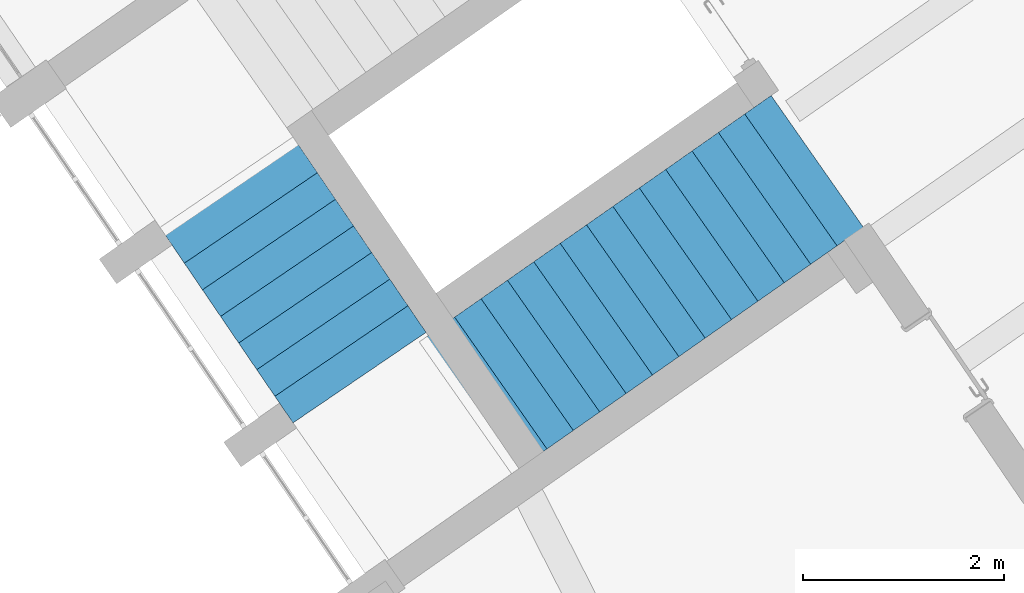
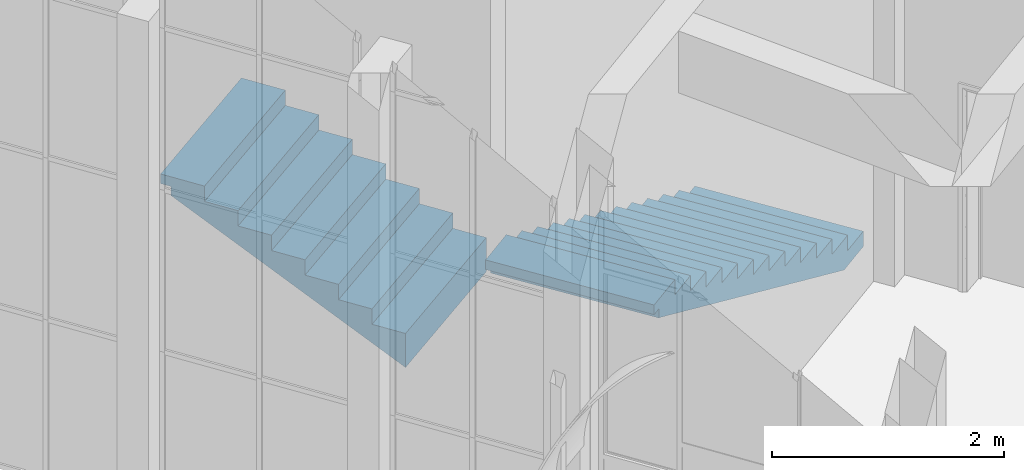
# One storey, part 151 of 157: 2 stair flights, 1 element without a shape of its own.
"""IFC2X3 building model written with IfcOpenShell, lengths in millimetres."""

from ifc_helpers import new_model, entity, si_unit, converted_unit, derived_unit, direction, frame, origin, place, context, subcontext, project, spatial, faceted_brep, material, material_list, type_object, element, aggregate, save


model = new_model("IFC2X3")

# Units and contexts
model_context = context("Model", 3, precision=0.01, world=origin(), true_north=direction((6.123031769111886e-17, 1.0)))
body_context = subcontext(model_context, "Body", "Model", "MODEL_VIEW")
ifc_project = project(units=[si_unit("LENGTHUNIT", "METRE", prefix="MILLI"), si_unit("AREAUNIT", "SQUARE_METRE"), si_unit("VOLUMEUNIT", "CUBIC_METRE"), converted_unit("PLANEANGLEUNIT", "DEGREE", entity("IfcRatioMeasure", 0.017453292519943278), si_unit("PLANEANGLEUNIT", "RADIAN"), dimensions=[0, 0, 0, 0, 0, 0, 0]), si_unit("MASSUNIT", "GRAM", prefix="KILO"), derived_unit("MASSDENSITYUNIT", [(si_unit("MASSUNIT", "GRAM", prefix="KILO"), 1), (si_unit("LENGTHUNIT", "METRE"), -3)]), derived_unit("MOMENTOFINERTIAUNIT", [(si_unit("LENGTHUNIT", "METRE"), 4)]), si_unit("TIMEUNIT", "SECOND"), si_unit("FREQUENCYUNIT", "HERTZ"), si_unit("THERMODYNAMICTEMPERATUREUNIT", "DEGREE_CELSIUS"), derived_unit("THERMALTRANSMITTANCEUNIT", [(si_unit("MASSUNIT", "GRAM", prefix="KILO"), 1), (si_unit("THERMODYNAMICTEMPERATUREUNIT", "KELVIN"), -1), (si_unit("TIMEUNIT", "SECOND"), -3)]), derived_unit("THERMALCONDUCTANCEUNIT", [(si_unit("MASSUNIT", "GRAM", prefix="KILO"), 1), (si_unit("LENGTHUNIT", "METRE"), 1), (si_unit("THERMODYNAMICTEMPERATUREUNIT", "KELVIN"), -1), (si_unit("TIMEUNIT", "SECOND"), -3)]), derived_unit("VOLUMETRICFLOWRATEUNIT", [(si_unit("LENGTHUNIT", "METRE"), 3), (si_unit("TIMEUNIT", "SECOND"), -1)]), derived_unit("MASSFLOWRATEUNIT", [(si_unit("MASSUNIT", "GRAM", prefix="KILO"), 1), (si_unit("TIMEUNIT", "SECOND"), -1)]), derived_unit("ROTATIONALFREQUENCYUNIT", [(si_unit("TIMEUNIT", "SECOND"), -1)]), si_unit("ELECTRICCURRENTUNIT", "AMPERE"), si_unit("ELECTRICVOLTAGEUNIT", "VOLT"), si_unit("POWERUNIT", "WATT"), converted_unit("FORCEUNIT", "KIP", entity("IfcRatioMeasure", 2.088543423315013e-05), si_unit("FORCEUNIT", "NEWTON"), dimensions=[1, 1, -2, 0, 0, 0, 0]), si_unit("ILLUMINANCEUNIT", "LUX"), si_unit("LUMINOUSFLUXUNIT", "LUMEN"), si_unit("LUMINOUSINTENSITYUNIT", "CANDELA"), derived_unit("USERDEFINED", [(si_unit("MASSUNIT", "GRAM", prefix="KILO"), -1), (si_unit("LENGTHUNIT", "METRE"), -2), (si_unit("TIMEUNIT", "SECOND"), 3), (si_unit("LUMINOUSFLUXUNIT", "LUMEN"), 1)]), derived_unit("USERDEFINED", [(si_unit("MASSUNIT", "GRAM", prefix="KILO"), 1), (si_unit("LENGTHUNIT", "METRE"), 3), (si_unit("TIMEUNIT", "SECOND"), -3), (si_unit("ELECTRICCURRENTUNIT", "AMPERE"), -2)]), derived_unit("USERDEFINED", [(si_unit("LENGTHUNIT", "METRE"), 2), (si_unit("TIMEUNIT", "SECOND"), -2)]), derived_unit("SOUNDPOWERUNIT", [(si_unit("MASSUNIT", "GRAM", prefix="KILO"), 1), (si_unit("LENGTHUNIT", "METRE"), 2), (si_unit("TIMEUNIT", "SECOND"), -3)]), derived_unit("SOUNDPRESSUREUNIT", [(si_unit("MASSUNIT", "GRAM", prefix="KILO"), 1), (si_unit("LENGTHUNIT", "METRE"), -1), (si_unit("TIMEUNIT", "SECOND"), -2)]), derived_unit("LINEARVELOCITYUNIT", [(si_unit("LENGTHUNIT", "METRE"), 1), (si_unit("TIMEUNIT", "SECOND"), -1)]), si_unit("PRESSUREUNIT", "PASCAL"), derived_unit("USERDEFINED", [(si_unit("LENGTHUNIT", "METRE"), -2), (si_unit("MASSUNIT", "GRAM", prefix="KILO"), 1), (si_unit("TIMEUNIT", "SECOND"), -2)]), derived_unit("LINEARFORCEUNIT", [(si_unit("MASSUNIT", "GRAM", prefix="KILO"), 1), (si_unit("LENGTHUNIT", "METRE"), 1), (si_unit("TIMEUNIT", "SECOND"), -2), (si_unit("LENGTHUNIT", "METRE"), -1)]), derived_unit("PLANARFORCEUNIT", [(si_unit("MASSUNIT", "GRAM", prefix="KILO"), 1), (si_unit("LENGTHUNIT", "METRE"), 1), (si_unit("TIMEUNIT", "SECOND"), -2), (si_unit("LENGTHUNIT", "METRE"), -2)]), derived_unit("SPECIFICHEATCAPACITYUNIT", [(si_unit("LENGTHUNIT", "METRE"), 2), (si_unit("TIMEUNIT", "SECOND"), -2), (si_unit("THERMODYNAMICTEMPERATUREUNIT", "KELVIN"), -1)]), derived_unit("VAPORPERMEABILITYUNIT", [(si_unit("TIMEUNIT", "SECOND"), 1), (si_unit("LENGTHUNIT", "METRE"), -1)]), derived_unit("DYNAMICVISCOSITYUNIT", [(si_unit("MASSUNIT", "GRAM", prefix="KILO"), 1), (si_unit("LENGTHUNIT", "METRE"), -1), (si_unit("TIMEUNIT", "SECOND"), -1)]), derived_unit("THERMALEXPANSIONCOEFFICIENTUNIT", [(si_unit("THERMODYNAMICTEMPERATUREUNIT", "KELVIN"), -1)])], contexts=[model_context])

# Site, building, storey
site_placement = place(None, frame((0.0, 0.0, 0.0), z_axis=(0.0, 0.0, 1.0), x_axis=(0.8191520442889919, 0.5735764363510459, 0.0)))
site = spatial("IfcSite", under=ifc_project, at=site_placement, Name="Default", CompositionType="ELEMENT")
building_placement = place(site_placement, origin())
building = spatial("IfcBuilding", under=site, at=building_placement, CompositionType="ELEMENT")
storey_placement = place(building_placement, origin())
storey = spatial("IfcBuildingStorey", under=building, at=storey_placement, Name="1.EG +0.00", CompositionType="ELEMENT", Elevation=-4.331468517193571e-12)

# Stair, stair flights
stair_placement = place(storey_placement, origin())
stair = element("IfcStair", 1, at=stair_placement, inside=storey, Name="Precast Stair:Stair", ObjectType="Precast Stair:Stair_CJC", ShapeType="NOTDEFINED")
ifc_material_1 = material(Name="Concrete, Cast-in-Place gray")
ifc_material_2 = material(Name="Analytical Wall Surface_CJC")
ifc_material_list = material_list([ifc_material_1, ifc_material_2])
stair_flight_type = type_object("IfcStairFlightType", Name="Monolithic Run:1mm_Tread-175mm_Depth", PredefinedType="STRAIGHT")
stair_flight_1_placement = place(stair_placement, frame((-221177.21995157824, 109846.76840384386, 0.0)))
stair_flight_1 = element("IfcStairFlight", 2, at=stair_flight_1_placement, type_object=stair_flight_type, material=ifc_material_list, Name="Precast Stair:Stair:619710 Run 1", ObjectType="Monolithic Run:1mm_Tread-175mm_Depth", NumberOfRiser=13, NumberOfTreads=13, RiserHeight=0.5269227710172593, TreadLength=1.0498687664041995, context=body_context, shape_type="Brep", body=[
    faceted_brep([(3940.0, 0.0, 160.60606060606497), (4260.0, 0.0, 160.60606060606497), (4260.0, 1600.0, 160.60606060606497), (3940.0, 1600.0, 160.60606060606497), (3940.0, 0.0, 159.60606060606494), (3940.0, 1600.0, 159.60606060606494), (4260.0, 1600.0, 159.60606060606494), (4260.0, 0.0, 159.60606060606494)], [[[0, 1, 2, 3]], [[4, 5, 6, 7]], [[1, 0, 4, 7]], [[2, 1, 7, 6]], [[3, 2, 6, 5]], [[0, 3, 5, 4]]]),
    faceted_brep([(3620.0, 0.0, 321.21212121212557), (3940.0, 0.0, 321.21212121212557), (3940.0, 1600.0, 321.21212121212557), (3620.0, 1600.0, 321.21212121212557), (3620.0, 0.0, 320.2121212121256), (3620.0, 1600.0, 320.2121212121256), (3940.0, 1600.0, 320.2121212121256), (3940.0, 0.0, 320.2121212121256)], [[[0, 1, 2, 3]], [[4, 5, 6, 7]], [[1, 0, 4, 7]], [[2, 1, 7, 6]], [[3, 2, 6, 5]], [[0, 3, 5, 4]]]),
    faceted_brep([(3300.0, 0.0, 481.8181818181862), (3620.0, 0.0, 481.8181818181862), (3620.0, 1600.0, 481.8181818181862), (3300.0, 1600.0, 481.8181818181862), (3300.0, 0.0, 480.81818181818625), (3300.0, 1600.0, 480.81818181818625), (3620.0, 1600.0, 480.81818181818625), (3620.0, 0.0, 480.81818181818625)], [[[0, 1, 2, 3]], [[4, 5, 6, 7]], [[1, 0, 4, 7]], [[2, 1, 7, 6]], [[3, 2, 6, 5]], [[0, 3, 5, 4]]]),
    faceted_brep([(2980.0, 0.0, 642.4242424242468), (3300.0, 0.0, 642.4242424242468), (3300.0, 1600.0, 642.4242424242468), (2980.0, 1600.0, 642.4242424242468), (2980.0, 0.0, 641.4242424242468), (2980.0, 1600.0, 641.4242424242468), (3300.0, 1600.0, 641.4242424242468), (3300.0, 0.0, 641.4242424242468)], [[[0, 1, 2, 3]], [[4, 5, 6, 7]], [[1, 0, 4, 7]], [[2, 1, 7, 6]], [[3, 2, 6, 5]], [[0, 3, 5, 4]]]),
    faceted_brep([(2660.0, 0.0, 803.0303030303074), (2980.0, 0.0, 803.0303030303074), (2980.0, 1600.0, 803.0303030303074), (2660.0, 1600.0, 803.0303030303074), (2660.0, 0.0, 802.0303030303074), (2660.0, 1600.0, 802.0303030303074), (2980.0, 1600.0, 802.0303030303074), (2980.0, 0.0, 802.0303030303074)], [[[0, 1, 2, 3]], [[4, 5, 6, 7]], [[1, 0, 4, 7]], [[2, 1, 7, 6]], [[3, 2, 6, 5]], [[0, 3, 5, 4]]]),
    faceted_brep([(2340.0, 0.0, 963.6363636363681), (2660.0, 0.0, 963.6363636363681), (2660.0, 1600.0, 963.6363636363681), (2340.0, 1600.0, 963.6363636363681), (2340.0, 0.0, 962.6363636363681), (2340.0, 1600.0, 962.6363636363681), (2660.0, 1600.0, 962.6363636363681), (2660.0, 0.0, 962.6363636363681)], [[[0, 1, 2, 3]], [[4, 5, 6, 7]], [[1, 0, 4, 7]], [[2, 1, 7, 6]], [[3, 2, 6, 5]], [[0, 3, 5, 4]]]),
    faceted_brep([(2020.0, 0.0, 1124.2424242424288), (2340.0, 0.0, 1124.2424242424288), (2340.0, 1600.0, 1124.2424242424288), (2020.0, 1600.0, 1124.2424242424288), (2020.0, 0.0, 1123.2424242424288), (2020.0, 1600.0, 1123.2424242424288), (2340.0, 1600.0, 1123.2424242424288), (2340.0, 0.0, 1123.2424242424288)], [[[0, 1, 2, 3]], [[4, 5, 6, 7]], [[1, 0, 4, 7]], [[2, 1, 7, 6]], [[3, 2, 6, 5]], [[0, 3, 5, 4]]]),
    faceted_brep([(1700.0, 0.0, 1284.8484848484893), (2020.0, 0.0, 1284.8484848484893), (2020.0, 1600.0, 1284.8484848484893), (1700.0, 1600.0, 1284.8484848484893), (1700.0, 0.0, 1283.8484848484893), (1700.0, 1600.0, 1283.8484848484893), (2020.0, 1600.0, 1283.8484848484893), (2020.0, 0.0, 1283.8484848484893)], [[[0, 1, 2, 3]], [[4, 5, 6, 7]], [[1, 0, 4, 7]], [[2, 1, 7, 6]], [[3, 2, 6, 5]], [[0, 3, 5, 4]]]),
    faceted_brep([(1380.0, 0.0, 1445.45454545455), (1700.0, 0.0, 1445.45454545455), (1700.0, 1600.0, 1445.45454545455), (1380.0, 1600.0, 1445.45454545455), (1380.0, 0.0, 1444.45454545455), (1380.0, 1600.0, 1444.45454545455), (1700.0, 1600.0, 1444.45454545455), (1700.0, 0.0, 1444.45454545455)], [[[0, 1, 2, 3]], [[4, 5, 6, 7]], [[1, 0, 4, 7]], [[2, 1, 7, 6]], [[3, 2, 6, 5]], [[0, 3, 5, 4]]]),
    faceted_brep([(1060.0, 0.0, 1606.0606060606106), (1380.0, 0.0, 1606.0606060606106), (1380.0, 1600.0, 1606.0606060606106), (1060.0, 1600.0, 1606.0606060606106), (1060.0, 0.0, 1605.0606060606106), (1060.0, 1600.0, 1605.0606060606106), (1380.0, 1600.0, 1605.0606060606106), (1380.0, 0.0, 1605.0606060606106)], [[[0, 1, 2, 3]], [[4, 5, 6, 7]], [[1, 0, 4, 7]], [[2, 1, 7, 6]], [[3, 2, 6, 5]], [[0, 3, 5, 4]]]),
    faceted_brep([(740.0, 0.0, 1766.666666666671), (1060.0, 0.0, 1766.666666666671), (1060.0, 1600.0, 1766.666666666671), (740.0, 1600.0, 1766.666666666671), (740.0, 0.0, 1765.666666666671), (740.0, 1600.0, 1765.666666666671), (1060.0, 1600.0, 1765.666666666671), (1060.0, 0.0, 1765.666666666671)], [[[0, 1, 2, 3]], [[4, 5, 6, 7]], [[1, 0, 4, 7]], [[2, 1, 7, 6]], [[3, 2, 6, 5]], [[0, 3, 5, 4]]]),
    faceted_brep([(420.0, 0.0, 1927.2727272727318), (740.0, 0.0, 1927.2727272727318), (740.0, 1600.0, 1927.2727272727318), (420.0, 1600.0, 1927.2727272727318), (420.0, 0.0, 1926.2727272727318), (420.0, 1600.0, 1926.2727272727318), (740.0, 1600.0, 1926.2727272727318), (740.0, 0.0, 1926.2727272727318)], [[[0, 1, 2, 3]], [[4, 5, 6, 7]], [[1, 0, 4, 7]], [[2, 1, 7, 6]], [[3, 2, 6, 5]], [[0, 3, 5, 4]]]),
    faceted_brep([(0.0, 0.0, 2087.8787878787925), (100.0, 0.0, 2087.8787878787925), (420.0, 0.0, 2087.8787878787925), (420.0, 1600.0, 2087.8787878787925), (0.0, 1600.0, 2087.8787878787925), (0.0, 0.0, 2086.8787878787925), (0.0, 1600.0, 2086.8787878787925), (420.0, 1600.0, 2086.8787878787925), (420.0, 0.0, 2086.8787878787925), (100.0, 0.0, 2086.8787878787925)], [[[0, 1, 2, 3, 4]], [[5, 6, 7, 8, 9]], [[1, 0, 5, 9]], [[3, 2, 8, 7]], [[4, 3, 7, 6]], [[0, 4, 6, 5]], [[2, 1, 9, 8]]]),
    faceted_brep([(3940.0, 0.0, 159.60606060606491), (4260.0, 0.0, 159.60606060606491), (4260.0, 1600.0, 159.60606060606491), (3940.0, 1600.0, 159.60606060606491), (3940.0, 0.0, 0.0), (4260.0, 0.0, 0.0), (4260.0, 1600.0, 0.0), (3940.0, 1600.0, 0.0), (3620.0, 0.0, 320.21212121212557), (3940.0, 0.0, 320.21212121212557), (3940.0, 1600.0, 320.21212121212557), (3620.0, 1600.0, 320.21212121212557), (3620.0, 0.0, 124.40772456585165), (3867.876522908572, 0.0, 0.0), (3867.8765229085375, 1600.0, 0.0), (3620.0, 1600.0, 124.40772456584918), (3300.0, 0.0, 480.8181818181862), (3620.0, 0.0, 480.8181818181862), (3620.0, 1600.0, 480.8181818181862), (3300.0, 1600.0, 480.8181818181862), (3300.0, 0.0, 285.0137851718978), (3300.0, 1600.0, 285.0137851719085), (2980.0, 0.0, 641.4242424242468), (3300.0, 0.0, 641.4242424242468), (3300.0, 1600.0, 641.4242424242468), (2980.0, 1600.0, 641.4242424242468), (2980.0, 0.0, 445.6198457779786), (2980.0, 1600.0, 445.61984577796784), (2660.0, 0.0, 802.0303030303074), (2980.0, 0.0, 802.0303030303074), (2980.0, 1600.0, 802.0303030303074), (2660.0, 1600.0, 802.0303030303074), (2660.0, 0.0, 606.2259063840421), (2660.0, 1600.0, 606.2259063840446), (2340.0, 0.0, 962.6363636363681), (2660.0, 0.0, 962.6363636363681), (2660.0, 1600.0, 962.6363636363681), (2340.0, 1600.0, 962.6363636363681), (2340.0, 0.0, 766.8319669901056), (2340.0, 1600.0, 766.8319669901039), (2020.0, 0.0, 1123.2424242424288), (2340.0, 0.0, 1123.2424242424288), (2340.0, 1600.0, 1123.2424242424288), (2020.0, 1600.0, 1123.2424242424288), (2020.0, 0.0, 927.4380275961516), (2020.0, 1600.0, 927.4380275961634), (1700.0, 0.0, 1283.8484848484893), (2020.0, 0.0, 1283.8484848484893), (2020.0, 1600.0, 1283.8484848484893), (1700.0, 1600.0, 1283.8484848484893), (1700.0, 0.0, 1088.0440882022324), (1700.0, 1600.0, 1088.04408820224), (1380.0, 0.0, 1444.45454545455), (1700.0, 0.0, 1444.45454545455), (1700.0, 1600.0, 1444.45454545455), (1380.0, 1600.0, 1444.45454545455), (1380.0, 0.0, 1248.6501488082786), (1380.0, 1600.0, 1248.650148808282), (108.35954177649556, 0.0, 1886.8787878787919), (108.35954177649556, 1600.0, 1886.8787878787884), (420.0, 1600.0, 1730.4683306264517), (740.0, 1600.0, 1569.8622700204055), (1060.0, 1600.0, 1409.256209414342), (1060.0, 0.0, 1409.256209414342), (740.0, 0.0, 1569.8622700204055), (420.0, 0.0, 1730.4683306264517), (0.0, 1600.0, 1986.8787878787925), (100.0, 1600.0, 1986.8787878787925), (100.0, 0.0, 1986.8787878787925), (0.0, 0.0, 1986.8787878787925), (0.0, 0.0, 2086.8787878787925), (0.0, 1600.0, 2086.8787878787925), (1060.0, 0.0, 1605.0606060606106), (1380.0, 0.0, 1605.0606060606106), (1380.0, 1600.0, 1605.0606060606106), (1060.0, 1600.0, 1605.0606060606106), (740.0, 0.0, 1765.666666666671), (1060.0, 0.0, 1765.666666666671), (1060.0, 1600.0, 1765.666666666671), (740.0, 1600.0, 1765.666666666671), (420.0, 0.0, 1926.2727272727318), (740.0, 0.0, 1926.2727272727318), (740.0, 1600.0, 1926.2727272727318), (420.0, 1600.0, 1926.2727272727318), (420.0, 0.0, 2086.8787878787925), (420.0, 1600.0, 2086.8787878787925), (100.0, 0.0, 1886.8787878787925), (100.0, 1600.0, 1886.8787878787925)], [[[0, 1, 2, 3]], [[1, 0, 4, 5]], [[2, 1, 5, 6]], [[3, 2, 6, 7]], [[8, 9, 10, 11]], [[4, 0, 9, 8, 12, 13]], [[0, 3, 10, 9]], [[3, 7, 14, 15, 11, 10]], [[16, 17, 18, 19]], [[17, 16, 20, 12, 8]], [[8, 11, 18, 17]], [[19, 18, 11, 15, 21]], [[22, 23, 24, 25]], [[23, 22, 26, 20, 16]], [[16, 19, 24, 23]], [[25, 24, 19, 21, 27]], [[28, 29, 30, 31]], [[29, 28, 32, 26, 22]], [[22, 25, 30, 29]], [[31, 30, 25, 27, 33]], [[34, 35, 36, 37]], [[35, 34, 38, 32, 28]], [[28, 31, 36, 35]], [[37, 36, 31, 33, 39]], [[40, 41, 42, 43]], [[41, 40, 44, 38, 34]], [[34, 37, 42, 41]], [[43, 42, 37, 39, 45]], [[46, 47, 48, 49]], [[47, 46, 50, 44, 40]], [[40, 43, 48, 47]], [[49, 48, 43, 45, 51]], [[52, 53, 54, 55]], [[53, 52, 56, 50, 46]], [[46, 49, 54, 53]], [[55, 54, 49, 51, 57]], [[5, 4, 13, 14, 7, 6]], [[58, 59, 60, 61, 62, 57, 51, 45, 39, 33, 27, 21, 15, 14, 13, 12, 20, 26, 32, 38, 44, 50, 56, 63, 64, 65]], [[66, 67, 68, 69]], [[66, 69, 70, 71]], [[72, 73, 74, 75]], [[73, 72, 63, 56, 52]], [[52, 55, 74, 73]], [[75, 74, 55, 57, 62]], [[76, 77, 78, 79]], [[77, 76, 64, 63, 72]], [[72, 75, 78, 77]], [[79, 78, 75, 62, 61]], [[80, 81, 82, 83]], [[81, 80, 65, 64, 76]], [[76, 79, 82, 81]], [[83, 82, 79, 61, 60]], [[84, 85, 71, 70]], [[80, 84, 70, 69, 68, 86, 58, 65]], [[80, 83, 85, 84]], [[71, 85, 83, 60, 59, 87, 67, 66]], [[87, 86, 68, 67]], [[59, 58, 86, 87]]]),
])
stair_flight_2_placement = place(stair_placement, frame((-222676.63571935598, 111485.59381359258, 0.0)))
stair_flight_2 = element("IfcStairFlight", 3, at=stair_flight_2_placement, type_object=stair_flight_type, material=ifc_material_list, Name="Precast Stair:Stair:619710 Run 2", ObjectType="Monolithic Run:1mm_Tread-175mm_Depth", NumberOfRiser=7, NumberOfTreads=7, RiserHeight=0.5269227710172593, TreadLength=1.0498687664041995, context=body_context, shape_type="Brep", body=[
    faceted_brep([(4.306040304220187, 341.50122836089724, 2248.4848484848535), (0.0, 21.53020152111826, 2248.4848484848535), (1599.855134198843, 0.0, 2248.4848484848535), (1604.161174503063, 319.9710268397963, 2248.4848484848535), (4.306040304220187, 341.50122836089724, 2247.4848484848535), (1604.161174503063, 319.9710268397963, 2247.4848484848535), (1599.855134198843, 0.0, 2247.4848484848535), (0.0, 21.53020152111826, 2247.4848484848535)], [[[0, 1, 2, 3]], [[4, 5, 6, 7]], [[1, 0, 4, 7]], [[2, 1, 7, 6]], [[3, 2, 6, 5]], [[0, 3, 5, 4]]]),
    faceted_brep([(8.612080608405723, 661.4722552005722, 2409.090909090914), (4.306040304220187, 341.50122836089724, 2409.090909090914), (1604.161174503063, 319.9710268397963, 2409.090909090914), (1608.4672148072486, 639.9420536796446, 2409.090909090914), (8.612080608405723, 661.4722552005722, 2408.090909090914), (1608.4672148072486, 639.9420536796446, 2408.090909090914), (1604.161174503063, 319.9710268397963, 2408.090909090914), (4.306040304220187, 341.50122836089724, 2408.090909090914)], [[[0, 1, 2, 3]], [[4, 5, 6, 7]], [[1, 0, 4, 7]], [[2, 1, 7, 6]], [[3, 2, 6, 5]], [[0, 3, 5, 4]]]),
    faceted_brep([(12.91812091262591, 981.4432820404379, 2569.6969696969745), (8.612080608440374, 661.4722552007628, 2569.6969696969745), (1608.4672148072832, 639.9420536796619, 2569.6969696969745), (1612.7732551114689, 959.9130805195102, 2569.6969696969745), (12.91812091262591, 981.4432820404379, 2568.6969696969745), (1612.7732551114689, 959.9130805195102, 2568.6969696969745), (1608.4672148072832, 639.9420536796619, 2568.6969696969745), (8.612080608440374, 661.4722552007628, 2568.6969696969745)], [[[0, 1, 2, 3]], [[4, 5, 6, 7]], [[1, 0, 4, 7]], [[2, 1, 7, 6]], [[3, 2, 6, 5]], [[0, 3, 5, 4]]]),
    faceted_brep([(17.2241612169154, 1301.4143088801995, 2730.303030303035), (12.918120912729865, 981.4432820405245, 2730.303030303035), (1612.7732551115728, 959.9130805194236, 2730.303030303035), (1617.0792954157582, 1279.8841073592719, 2730.303030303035), (17.2241612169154, 1301.4143088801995, 2729.3030303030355), (1617.0792954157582, 1279.8841073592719, 2729.3030303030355), (1612.7732551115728, 959.9130805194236, 2729.3030303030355), (12.918120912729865, 981.4432820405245, 2729.3030303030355)], [[[0, 1, 2, 3]], [[4, 5, 6, 7]], [[1, 0, 4, 7]], [[2, 1, 7, 6]], [[3, 2, 6, 5]], [[0, 3, 5, 4]]]),
    faceted_brep([(21.530201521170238, 1621.3853357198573, 2890.909090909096), (17.224161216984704, 1301.4143088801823, 2890.909090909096), (1617.0792954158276, 1279.8841073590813, 2890.909090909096), (1621.385335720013, 1599.8551341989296, 2890.909090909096), (21.530201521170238, 1621.3853357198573, 2889.909090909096), (1621.385335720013, 1599.8551341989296, 2889.909090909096), (1617.0792954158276, 1279.8841073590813, 2889.909090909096), (17.224161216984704, 1301.4143088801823, 2889.909090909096)], [[[0, 1, 2, 3]], [[4, 5, 6, 7]], [[1, 0, 4, 7]], [[2, 1, 7, 6]], [[3, 2, 6, 5]], [[0, 3, 5, 4]]]),
    faceted_brep([(25.836241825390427, 1941.3563625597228, 3051.515151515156), (21.53020152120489, 1621.3853357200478, 3051.515151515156), (1621.3853357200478, 1599.8551341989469, 3051.515151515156), (1625.6913760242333, 1919.8261610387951, 3051.515151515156), (25.836241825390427, 1941.3563625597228, 3050.5151515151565), (1625.6913760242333, 1919.8261610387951, 3050.5151515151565), (1621.3853357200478, 1599.8551341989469, 3050.5151515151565), (21.53020152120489, 1621.3853357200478, 3050.5151515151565)], [[[0, 1, 2, 3]], [[4, 5, 6, 7]], [[1, 0, 4, 7]], [[2, 1, 7, 6]], [[3, 2, 6, 5]], [[0, 3, 5, 4]]]),
    faceted_brep([(31.48791972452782, 2361.318335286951, 3212.121212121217), (30.142282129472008, 2261.3273893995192, 3212.121212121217), (25.83624182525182, 1941.3563625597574, 3212.121212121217), (1625.6913760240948, 1919.8261610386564, 3212.121212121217), (1629.9974163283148, 2239.7971878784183, 3212.121212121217), (1630.5584502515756, 2339.798692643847, 3212.121212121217), (31.48791972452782, 2361.318335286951, 3211.121212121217), (1630.5584502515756, 2339.798692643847, 3211.121212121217), (1629.9974163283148, 2239.7971878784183, 3211.121212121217), (1625.6913760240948, 1919.8261610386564, 3211.121212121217), (25.83624182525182, 1941.3563625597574, 3211.121212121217), (30.142282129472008, 2261.3273893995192, 3211.121212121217)], [[[0, 1, 2, 3, 4, 5]], [[6, 7, 8, 9, 10, 11]], [[1, 0, 6, 11]], [[3, 2, 10, 9]], [[4, 3, 9, 8]], [[0, 5, 7, 6]], [[2, 1, 11, 10]], [[5, 4, 8, 7]]]),
    faceted_brep([(4.306040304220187, 341.50122836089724, 2247.4848484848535), (0.0, 21.53020152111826, 2247.4848484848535), (1599.855134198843, 0.0, 2247.4848484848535), (1604.161174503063, 319.97102683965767, 2247.4848484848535), (4.306040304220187, 341.5012283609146, 2051.680451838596), (0.0, 21.53020152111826, 1891.074391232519), (1599.855134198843, 0.0, 1891.074391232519), (1604.161174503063, 319.9710268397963, 2051.6804518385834), (8.612080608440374, 661.4722552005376, 2408.090909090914), (4.306040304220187, 341.5012283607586, 2408.090909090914), (1604.161174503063, 319.97102683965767, 2408.090909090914), (1608.4672148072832, 639.9420536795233, 2408.090909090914), (8.612080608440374, 661.4722552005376, 2212.2865124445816), (1608.4672148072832, 639.9420536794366, 2212.2865124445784), (12.91812091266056, 981.4432820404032, 2568.6969696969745), (8.612080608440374, 661.4722552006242, 2568.6969696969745), (1608.4672148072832, 639.9420536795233, 2568.6969696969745), (1612.7732551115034, 959.9130805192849, 2568.6969696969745), (12.91812091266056, 981.4432820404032, 2372.8925730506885), (1612.7732551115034, 959.9130805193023, 2372.892573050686), (17.22416121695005, 1301.4143088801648, 2729.3030303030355), (12.918120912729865, 981.4432820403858, 2729.3030303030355), (1612.7732551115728, 959.9130805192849, 2729.3030303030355), (1617.0792954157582, 1279.8841073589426, 2729.3030303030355), (17.22416121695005, 1301.4143088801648, 2533.498633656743), (1617.079295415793, 1279.8841073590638, 2533.4986336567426), (21.53020152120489, 1621.3853357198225, 2889.909090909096), (17.224161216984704, 1301.4143088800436, 2889.909090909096), (1617.0792954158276, 1279.8841073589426, 2889.909090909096), (1621.3853357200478, 1599.8551341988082, 2889.909090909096), (21.53020152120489, 1621.3853357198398, 2694.1046942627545), (1621.3853357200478, 1599.8551341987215, 2694.1046942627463), (25.836241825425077, 1941.3563625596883, 3050.5151515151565), (21.53020152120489, 1621.385335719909, 3050.5151515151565), (1621.3853357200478, 1599.8551341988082, 3050.5151515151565), (1625.691376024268, 1919.8261610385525, 3050.5151515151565), (25.836241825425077, 1941.3563625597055, 2854.7107548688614), (1625.691376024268, 1919.8261610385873, 2854.7107548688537), (25.83624182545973, 1941.3563625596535, 3211.121212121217), (1625.6913760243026, 1919.8261610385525, 3211.121212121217), (1629.8849271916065, 2231.4384029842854, 3211.121212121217), (1622.8775608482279, 2231.53270527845, 3211.121212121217), (1622.8775608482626, 2239.893004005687, 3211.121212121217), (1629.9974163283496, 2239.7971878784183, 3211.121212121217), (1631.3430539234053, 2339.78813376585, 3211.121212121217), (31.487919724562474, 2361.318335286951, 3211.121212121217), (31.48791972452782, 2361.318335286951, 3111.121212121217), (30.142282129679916, 2261.3273893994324, 3111.121212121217), (30.142282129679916, 2261.327389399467, 3011.121212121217), (30.02979299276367, 2252.9686045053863, 3011.1212121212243), (1629.8849271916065, 2231.4384029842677, 3011.1212121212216), (1622.8775608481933, 2239.893004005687, 3011.121212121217), (1622.8775608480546, 2239.893004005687, 3111.121212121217), (1631.3430539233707, 2339.78813376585, 3111.121212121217), (1629.9974163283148, 2239.7971878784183, 3111.121212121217), (1622.8775608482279, 2231.53270527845, 3011.1212121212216)], [[[0, 1, 2, 3]], [[1, 0, 4, 5]], [[2, 1, 5, 6]], [[3, 2, 6, 7]], [[8, 9, 10, 11]], [[9, 8, 12, 4, 0]], [[10, 9, 0, 3]], [[11, 10, 3, 7, 13]], [[14, 15, 16, 17]], [[15, 14, 18, 12, 8]], [[16, 15, 8, 11]], [[17, 16, 11, 13, 19]], [[20, 21, 22, 23]], [[21, 20, 24, 18, 14]], [[22, 21, 14, 17]], [[23, 22, 17, 19, 25]], [[26, 27, 28, 29]], [[27, 26, 30, 24, 20]], [[28, 27, 20, 23]], [[29, 28, 23, 25, 31]], [[32, 33, 34, 35]], [[33, 32, 36, 30, 26]], [[34, 33, 26, 29]], [[35, 34, 29, 31, 37]], [[38, 39, 40, 41, 42, 43, 44, 45]], [[32, 38, 45, 46, 47, 48, 49, 36]], [[39, 38, 32, 35]], [[39, 35, 37, 50, 40]], [[51, 48, 47, 52]], [[53, 54, 52, 47, 46]], [[54, 53, 44, 43]], [[53, 46, 45, 44]], [[54, 43, 42, 52]], [[55, 50, 37, 31, 25, 19, 13, 7, 6, 5, 4, 12, 18, 24, 30, 36, 49]], [[50, 55, 41, 40]], [[55, 49, 48, 51]], [[41, 55, 51, 52, 42]]]),
])
aggregate(stair, [stair_flight_1, stair_flight_2])

save(model, "model.ifc")
